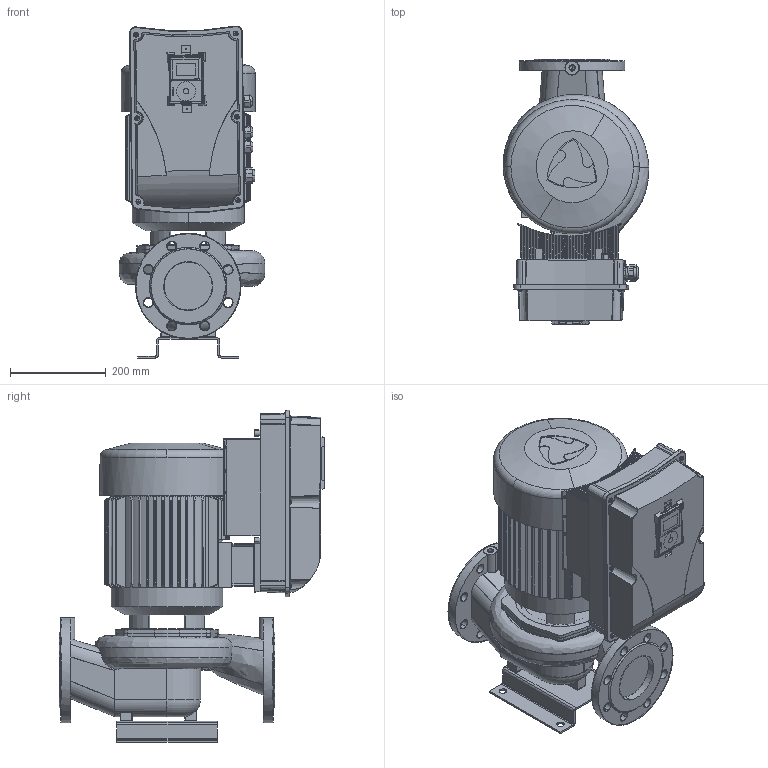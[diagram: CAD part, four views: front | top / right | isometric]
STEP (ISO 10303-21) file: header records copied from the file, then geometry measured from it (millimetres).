
FILE_DESCRIPTION(('STEP AP214'),'1');
FILE_NAME('export.stp','2018-06-01T12:34:52',(' '),(' '),'Spatial InterOp 3D',' ',' ');
FILE_SCHEMA(('AUTOMOTIVE_DESIGN { 1 0 10303 214 1 1 1 1 }'));
Length unit declared in the file: millimetre
Products named in the file (27): V_MKP132_VS; RU_OKN_132; TSUOJA_OKN_132_133; Vacon_MS3; P101415; P101409; P101462; Piirilevyn_pala; A2004-2-4-LP-N-R; P101414; Vacon_Display; CAD-3D-VACON-M100-Display.sldasm; Vacon_display_pla; Vacon_display_scr; DIN_7985-M5x10; M20_tiivisteholkk; M25_tiivisteholkk; G43699; DIN_7985-M5x20; DIN_7985-M4x16; SOVITUSPALA; V_MKP-132-F19_VS; V_EKF19OKN132; W_AL11022750_KPVS; V_TLL65AB80A1102; V_PPAL1102; V_JALKA35973
Assembly tree (40 placements, depth 6):
  W_AL11022750_KPVS
    V_MKP-132-F19_VS
      V_MKP132_VS
        RU_OKN_132
        TSUOJA_OKN_132_133
        Vacon_MS3
          P101415
          P101409
          P101462
            Piirilevyn_pala
            A2004-2-4-LP-N-R  x2
          P101414
          Vacon_Display
            CAD-3D-VACON-M100-Display.sldasm
            Vacon_display_pla
            Vacon_display_scr
          DIN_7985-M5x10  x6
          M20_tiivisteholkk  x3
          M25_tiivisteholkk
          G43699  x2
          DIN_7985-M5x20  x6
          DIN_7985-M4x16
        SOVITUSPALA
      V_EKF19OKN132
    V_TLL65AB80A1102
    V_PPAL1102
    V_JALKA35973
Bounding box: 304.08 x 554.31 x 692.46 mm (x, y, z)
Volume: 22093643.7 mm3; surface area: 3720414.1 mm2
Topology: 34 solids, 1507 shells, 4117 faces, 14737 edges, 12167 vertices
Faces by surface type: bspline 1540, plane 1129, cylinder 939, cone 288, torus 170, sphere 43, offset 8
Entity records: 198977 total; most frequent: CARTESIAN_POINT 76034, ORIENTED_EDGE 19506, EDGE_CURVE 13575, DIRECTION 11766, VERTEX_POINT 11479, B_SPLINE_CURVE_WITH_KNOTS 6994, AXIS2_PLACEMENT_3D 4471, STYLED_ITEM 4422
